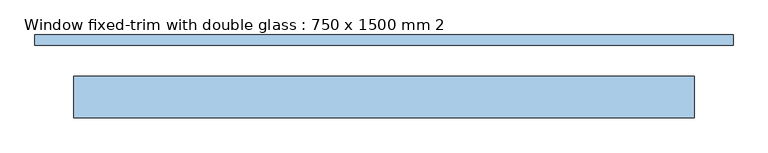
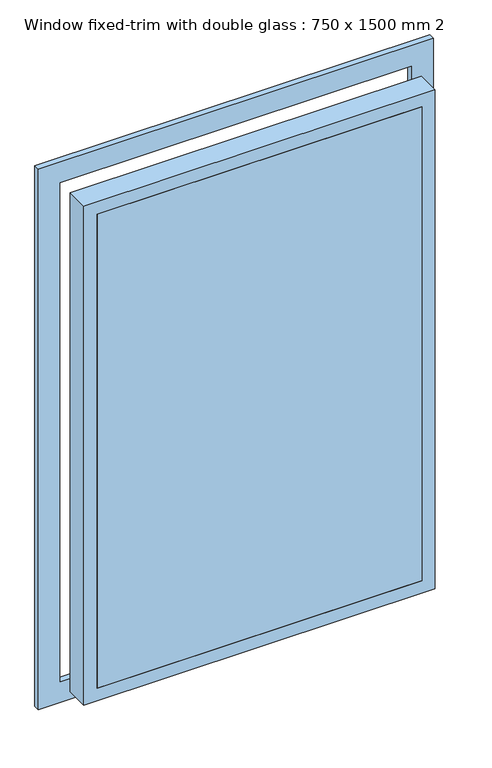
"""IFC4 building model written with IfcOpenShell, lengths in millimetres: window geometry, Window fixed-trim with double glass : 750 x 1500 mm 2."""

from ifc_helpers import new_model, si_unit, frame, origin, place, context, project, spatial, polyline, outline, extrude, faceted_brep, source, transform, mapped, element, save


def window_fixed_trim_with_double_glass_750_x_1500_mm_2_a35bcce7(model_context):
    return source(origin(), model_context, "Body", "SolidModel", [
        extrude(outline(polyline([(555.0, 40.0), (555.0, 36.0), (-555.0, 36.0), (-555.0, 40.0), (555.0, 40.0)])), frame((0.0, 0.0, 845.0), z_axis=(0.0, 0.0, 1.0), x_axis=(1.0, 0.0, 0.0)), (0.0, 0.0, 1.0), 1710.0),
        extrude(outline(polyline([(555.0, -36.0), (555.0, -40.0), (-555.0, -40.0), (-555.0, -36.0), (555.0, -36.0)])), frame((0.0, 0.0, 845.0), z_axis=(0.0, 0.0, 1.0), x_axis=(1.0, 0.0, 0.0)), (0.0, 0.0, 1.0), 1710.0),
        faceted_brep([(-555.0, 36.0, 2555.0), (-555.0, 40.0, 2555.0), (555.0, 40.0, 2555.0), (555.0, 36.0, 2555.0), (-540.0, -36.0, 2540.0), (-540.0, 36.0, 2540.0), (540.0, 36.0, 2540.0), (540.0, -36.0, 2540.0), (-555.0, -40.0, 2555.0), (-555.0, -36.0, 2555.0), (555.0, -36.0, 2555.0), (555.0, -40.0, 2555.0), (-600.0, 40.0, 2600.0), (-600.0, -40.0, 2600.0), (600.0, -40.0, 2600.0), (600.0, 40.0, 2600.0), (555.0, 40.0, 845.0), (555.0, 36.0, 845.0), (540.0, 36.0, 860.0), (540.0, -36.0, 860.0), (555.0, -36.0, 845.0), (555.0, -40.0, 845.0), (600.0, -40.0, 800.0), (600.0, 40.0, 800.0), (-555.0, 40.0, 845.0), (-555.0, 36.0, 845.0), (-540.0, 36.0, 860.0), (-540.0, -36.0, 860.0), (-555.0, -36.0, 845.0), (-555.0, -40.0, 845.0), (-600.0, -40.0, 800.0), (-600.0, 40.0, 800.0)], [[[0, 1, 2, 3]], [[4, 5, 6, 7]], [[8, 9, 10, 11]], [[12, 13, 14, 15]], [[3, 2, 16, 17]], [[7, 6, 18, 19]], [[11, 10, 20, 21]], [[15, 14, 22, 23]], [[17, 16, 24, 25]], [[19, 18, 26, 27]], [[21, 20, 28, 29]], [[23, 22, 30, 31]], [[15, 23, 31, 12], [1, 24, 16, 2]], [[25, 24, 1, 0]], [[3, 17, 25, 0], [5, 26, 18, 6]], [[27, 26, 5, 4]], [[9, 28, 20, 10], [7, 19, 27, 4]], [[29, 28, 9, 8]], [[13, 30, 22, 14], [11, 21, 29, 8]], [[31, 30, 13, 12]]]),
        extrude(outline(polyline([(2675.0, -675.0), (725.0, -675.0), (725.0, 675.0), (2675.0, 675.0), (2675.0, -675.0)]), holes=[polyline([(2600.0, -600.0), (2600.0, 600.0), (800.0, 600.0), (800.0, -600.0), (2600.0, -600.0)])]), frame((0.0, 100.0, 0.0), z_axis=(0.0, 1.0, 0.0), x_axis=(0.0, 0.0, 1.0)), (0.0, 0.0, 1.0), 20.0),
    ])


if __name__ == "__main__":
    model = new_model("IFC4")
    model_context = context("Model", 3, world=origin())
    ifc_project = project(units=[si_unit("LENGTHUNIT", "METRE", prefix="MILLI")], contexts=[model_context])
    site = spatial("IfcSite", under=ifc_project)
    building = spatial("IfcBuilding", under=site)
    placement = place(None, origin())
    window_fixed_trim_with_double_glass_750_x_1500_mm_2_shape = window_fixed_trim_with_double_glass_750_x_1500_mm_2_a35bcce7(model_context)
    element("IfcWindow", 1, ObjectType="Window fixed-trim with double glass : 750 x 1500 mm 2", at=placement, inside=building, context=model_context, shape_type="MappedRepresentation", body=[
        mapped(window_fixed_trim_with_double_glass_750_x_1500_mm_2_shape, transform((0.0, 0.0, 0.0), x_axis=(1.0, 0.0, 0.0), y_axis=(0.0, 1.0, 0.0), z_axis=(0.0, 0.0, 1.0))),
    ])
    save(model, "model.ifc")
